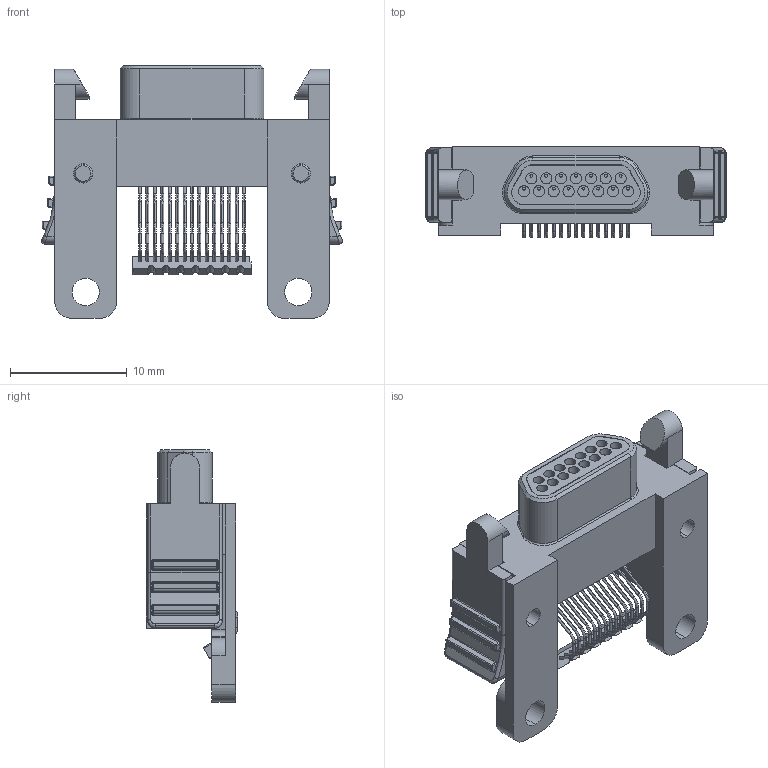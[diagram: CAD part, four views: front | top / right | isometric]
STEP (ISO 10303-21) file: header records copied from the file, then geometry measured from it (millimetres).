
FILE_DESCRIPTION (( 'STEP AP214' ), '1' );
FILE_NAME ('A98083-015 REV B.STEP', '2021-01-27T17:11:59', ( '' ), ( '' ), 'SwSTEP 2.0', 'SolidWorks 2019', '' );
FILE_SCHEMA (( 'AUTOMOTIVE_DESIGN' ));
Length unit declared in the file: inch
Products named in the file (1): A98083-015 REV B
Bounding box: 25.71 x 7.82 x 21.62 mm (x, y, z)
Volume: 1543.7 mm3; surface area: 2748.3 mm2
Topology: 1 solids, 1 shells, 972 faces, 2356 edges, 1447 vertices
Faces by surface type: cylinder 419, plane 297, torus 127, bspline 74, cone 43, sphere 12
Entity records: 44262 total; most frequent: CARTESIAN_POINT 8640, DIRECTION 5006, ORIENTED_EDGE 4676, EDGE_CURVE 2338, AXIS2_PLACEMENT_3D 1932, VERTEX_POINT 1447, LINE 1142, VECTOR 1142
